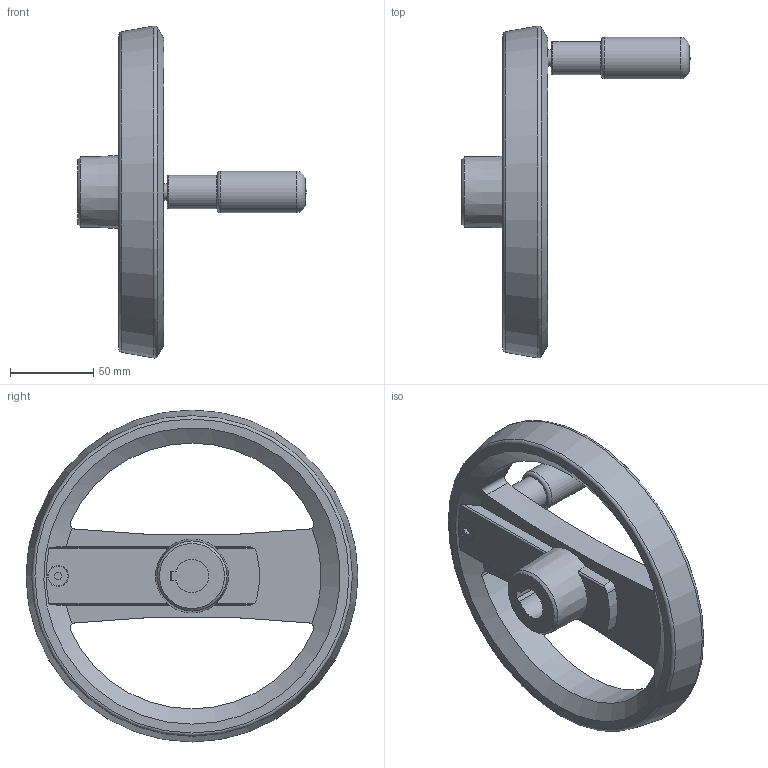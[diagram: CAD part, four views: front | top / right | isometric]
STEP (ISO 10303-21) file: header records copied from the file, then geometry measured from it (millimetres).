
FILE_DESCRIPTION( ( 'STEP AP203' ), '1' );
FILE_NAME( 'C:/Temp/Ganter_Step_05_03_2020/data/1_3/gn_924_3/gn_924_3_k/Handwheel with retractable handle GN 924.3-200-K20-R-SW (activated).stp', '2020-03-05T10:41:21', ( 'License CC BY-ND 4.0' ), ( 'CADENAS' ), ' ', 'PARTsolutions', ' ' );
FILE_SCHEMA( ( 'CONFIG_CONTROL_DESIGN' ) );
Length unit declared in the file: millimetre
Products named in the file (3): Handwheel with retractable handle GN 924.3-200-K20-R-SW (activated); _Umleggriff-Handrad GN 924.3-200-K20-R-SW-1; _Umleggriff-Handrad GN 924.3-200-K20-R-SW-2
Assembly tree (2 placements, depth 2):
  Handwheel with retractable handle GN 924.3-200-K20-R-SW (activated)
    _Umleggriff-Handrad GN 924.3-200-K20-R-SW-1
    _Umleggriff-Handrad GN 924.3-200-K20-R-SW-2
Bounding box: 137.2 x 199.58 x 199.58 mm (x, y, z)
Volume: 415313.6 mm3; surface area: 85489.9 mm2
Topology: 2 solids, 2 shells, 105 faces, 273 edges, 174 vertices
Faces by surface type: plane 47, cylinder 39, cone 10, torus 7, sphere 2
Full cylindrical faces by diameter (mm): 3.96 x2, 4 x2, 5 x1, 10 x1, 12 x1, 20 x1, 25 x2, 26.6 x1
Entity records: 3463 total; most frequent: CARTESIAN_POINT 933, DIRECTION 510, ORIENTED_EDGE 468, EDGE_CURVE 234, AXIS2_PLACEMENT_3D 205, VERTEX_POINT 167, EDGE_LOOP 144, FACE_OUTER_BOUND 123
